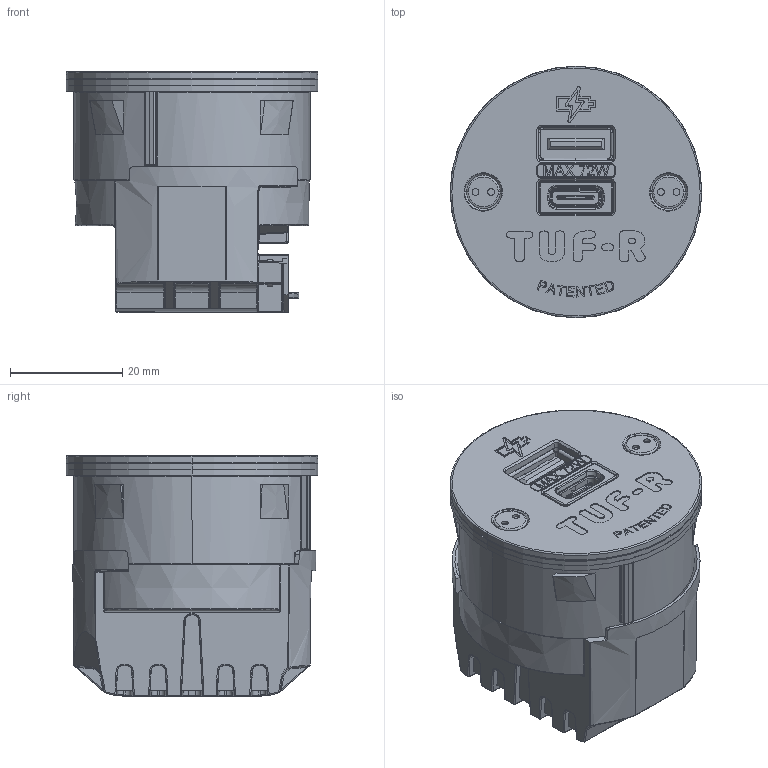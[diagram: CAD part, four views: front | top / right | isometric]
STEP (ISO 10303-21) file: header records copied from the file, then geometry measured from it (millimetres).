
FILE_DESCRIPTION (( 'STEP AP203' ), '1' );
FILE_NAME ('TUFR - 72W.STEP', '2023-02-02T14:47:57', ( '' ), ( '' ), 'SwSTEP 2.0', 'SolidWorks 2021', '' );
FILE_SCHEMA (( 'CONFIG_CONTROL_DESIGN' ));
Length unit declared in the file: millimetre
Products named in the file (1): TUFR - 72W
Bounding box: 44.8 x 44.8 x 42.88 mm (x, y, z)
Volume: 54039.5 mm3; surface area: 11499 mm2
Topology: 1 solids, 4 shells, 1964 faces, 5278 edges, 3337 vertices
Faces by surface type: plane 1021, bspline 440, cylinder 434, cone 63, torus 6
Entity records: 71599 total; most frequent: CARTESIAN_POINT 27632, ORIENTED_EDGE 10476, DIRECTION 7024, EDGE_CURVE 5238, VERTEX_POINT 3337, VECTOR 2978, LINE 2978, EDGE_LOOP 2049
